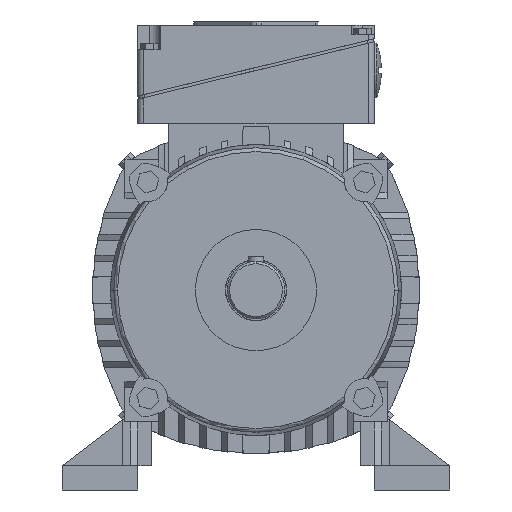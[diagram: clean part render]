
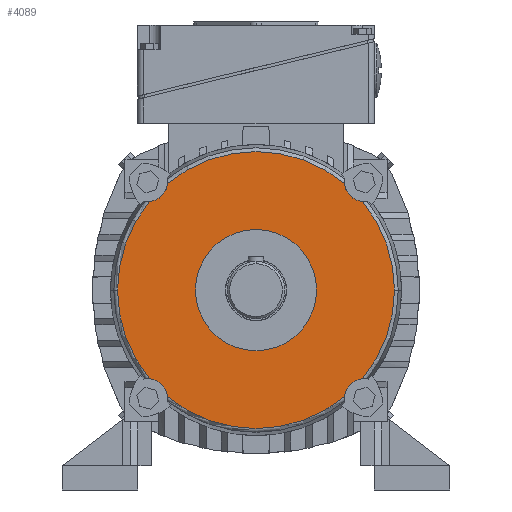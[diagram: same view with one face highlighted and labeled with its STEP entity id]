
A CAD part, front view. The second image highlights one B-rep face of the part: STEP entity #4089.
In plain terms, the highlighted planar face has unit normal (0, -1, 0).
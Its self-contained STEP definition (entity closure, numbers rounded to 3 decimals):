
#3847=VERTEX_POINT('',#11311);
#3871=EDGE_CURVE('',#4493,#4595,#11337,.T.);
#4089=ADVANCED_FACE('',(#11577,#11578),#11579,.T.);
#4101=EDGE_CURVE('',#8759,#4527,#11592,.T.);
#4493=VERTEX_POINT('',#12021);
#4521=VERTEX_POINT('',#12053);
#4527=VERTEX_POINT('',#12059);
#4595=VERTEX_POINT('',#12133);
#4711=EDGE_CURVE('',#9201,#8759,#12258,.T.);
#5099=EDGE_CURVE('',#5585,#9627,#12687,.T.);
#5267=EDGE_CURVE('',#6183,#5585,#12876,.T.);
#5585=VERTEX_POINT('',#13225);
#5965=EDGE_CURVE('',#8997,#9615,#13648,.T.);
#6183=VERTEX_POINT('',#13884);
#6489=VERTEX_POINT('',#14219);
#7993=EDGE_CURVE('',#10201,#9201,#15855,.T.);
#8421=EDGE_CURVE('',#10375,#6183,#16323,.T.);
#8467=EDGE_CURVE('',#4521,#3847,#16372,.T.);
#8655=EDGE_CURVE('',#6489,#8917,#16575,.T.);
#8717=EDGE_CURVE('',#9615,#4493,#16639,.T.);
#8759=VERTEX_POINT('',#16687);
#8917=VERTEX_POINT('',#16863);
#8997=VERTEX_POINT('',#16948);
#9201=VERTEX_POINT('',#17172);
#9507=EDGE_CURVE('',#9627,#10201,#17504,.T.);
#9615=VERTEX_POINT('',#17624);
#9627=VERTEX_POINT('',#17638);
#10165=EDGE_CURVE('',#4595,#6489,#18223,.T.);
#10201=VERTEX_POINT('',#18261);
#10375=VERTEX_POINT('',#18451);
#10385=EDGE_CURVE('',#3847,#4521,#18463,.T.);
#10459=EDGE_CURVE('',#8917,#10375,#18543,.T.);
#10901=EDGE_CURVE('',#4527,#8997,#19014,.T.);
#11311=CARTESIAN_POINT('',(-40.0,-28.0,0.));
#11337=CIRCLE('',#19633,91.434);
#11577=FACE_OUTER_BOUND('',#20041,.T.);
#11578=FACE_BOUND('',#20042,.T.);
#11579=PLANE('',#20043);
#11592=CIRCLE('',#20071,13.0);
#12021=CARTESIAN_POINT('',(-70.299,-28.0,58.466));
#12053=CARTESIAN_POINT('',(40.0,-28.0,0.));
#12059=CARTESIAN_POINT('',(58.466,-28.0,70.299));
#12133=CARTESIAN_POINT('',(-91.434,-28.0,0.));
#12258=CIRCLE('',#21366,13.0);
#12687=CIRCLE('',#22144,13.0);
#12876=CIRCLE('',#22500,13.0);
#13225=CARTESIAN_POINT('',(62.225,-28.0,-62.225));
#13648=CIRCLE('',#23981,13.0);
#13884=CARTESIAN_POINT('',(58.466,-28.0,-70.299));
#14219=CARTESIAN_POINT('',(-70.299,-28.0,-58.466));
#15855=CIRCLE('',#28148,91.434);
#16323=CIRCLE('',#29017,91.434);
#16372=CIRCLE('',#29085,40.0);
#16575=CIRCLE('',#29510,13.0);
#16639=CIRCLE('',#29714,13.0);
#16687=CARTESIAN_POINT('',(62.225,-28.0,62.225));
#16863=CARTESIAN_POINT('',(-62.225,-28.0,-62.225));
#16948=CARTESIAN_POINT('',(-58.466,-28.0,70.299));
#17172=CARTESIAN_POINT('',(70.299,-28.0,58.466));
#17504=CIRCLE('',#31510,91.434);
#17624=CARTESIAN_POINT('',(-62.225,-28.0,62.225));
#17638=CARTESIAN_POINT('',(70.299,-28.0,-58.466));
#18223=CIRCLE('',#32931,91.434);
#18261=CARTESIAN_POINT('',(91.434,-28.0,0.));
#18451=CARTESIAN_POINT('',(-58.466,-28.0,-70.299));
#18463=CIRCLE('',#33384,40.0);
#18543=CIRCLE('',#33579,13.0);
#19014=CIRCLE('',#34551,91.434);
#19633=AXIS2_PLACEMENT_3D('',#35308,#35309,#35310);
#20041=EDGE_LOOP('',(#35574,#35575,#35576,#35577,#35578,#35579,#35580,#35581,#35582,#35583,#35584,#35585,#35586,#35587));
#20042=EDGE_LOOP('',(#35588,#35589));
#20043=AXIS2_PLACEMENT_3D('',#35590,#35591,#35592);
#20071=AXIS2_PLACEMENT_3D('',#35604,#35605,#35606);
#21366=AXIS2_PLACEMENT_3D('',#36291,#36292,#36293);
#22144=AXIS2_PLACEMENT_3D('',#36738,#36739,#36740);
#22500=AXIS2_PLACEMENT_3D('',#36990,#36991,#36992);
#23981=AXIS2_PLACEMENT_3D('',#37882,#37883,#37884);
#28148=AXIS2_PLACEMENT_3D('',#40319,#40320,#40321);
#29017=AXIS2_PLACEMENT_3D('',#40816,#40817,#40818);
#29085=AXIS2_PLACEMENT_3D('',#40858,#40859,#40860);
#29510=AXIS2_PLACEMENT_3D('',#41039,#41040,#41041);
#29714=AXIS2_PLACEMENT_3D('',#41081,#41082,#41083);
#31510=AXIS2_PLACEMENT_3D('',#41977,#41978,#41979);
#32931=AXIS2_PLACEMENT_3D('',#42752,#42753,#42754);
#33384=AXIS2_PLACEMENT_3D('',#42972,#42973,#42974);
#33579=AXIS2_PLACEMENT_3D('',#43038,#43039,#43040);
#34551=AXIS2_PLACEMENT_3D('',#43409,#43410,#43411);
#35308=CARTESIAN_POINT('',(0.0,-28.0,0.0));
#35309=DIRECTION('',(0.0,-1.0,0.0));
#35310=DIRECTION('',(1.0,0.0,0.0));
#35574=ORIENTED_EDGE('',*,*,#5267,.T.);
#35575=ORIENTED_EDGE('',*,*,#5099,.T.);
#35576=ORIENTED_EDGE('',*,*,#9507,.T.);
#35577=ORIENTED_EDGE('',*,*,#7993,.T.);
#35578=ORIENTED_EDGE('',*,*,#4711,.T.);
#35579=ORIENTED_EDGE('',*,*,#4101,.T.);
#35580=ORIENTED_EDGE('',*,*,#10901,.T.);
#35581=ORIENTED_EDGE('',*,*,#5965,.T.);
#35582=ORIENTED_EDGE('',*,*,#8717,.T.);
#35583=ORIENTED_EDGE('',*,*,#3871,.T.);
#35584=ORIENTED_EDGE('',*,*,#10165,.T.);
#35585=ORIENTED_EDGE('',*,*,#8655,.T.);
#35586=ORIENTED_EDGE('',*,*,#10459,.T.);
#35587=ORIENTED_EDGE('',*,*,#8421,.T.);
#35588=ORIENTED_EDGE('',*,*,#10385,.T.);
#35589=ORIENTED_EDGE('',*,*,#8467,.T.);
#35590=CARTESIAN_POINT('',(45.717,-28.0,0.0));
#35591=DIRECTION('',(0.,-1.0,0.0));
#35592=DIRECTION('',(1.0,0.,0.0));
#35604=CARTESIAN_POINT('',(71.418,-28.0,71.418));
#35605=DIRECTION('',(0.,1.0,0.0));
#35606=DIRECTION('',(0.707,0.,0.707));
#36291=CARTESIAN_POINT('',(71.418,-28.0,71.418));
#36292=DIRECTION('',(0.,1.0,0.0));
#36293=DIRECTION('',(0.707,0.,0.707));
#36738=CARTESIAN_POINT('',(71.418,-28.0,-71.418));
#36739=DIRECTION('',(0.,1.0,0.0));
#36740=DIRECTION('',(0.707,0.,-0.707));
#36990=CARTESIAN_POINT('',(71.418,-28.0,-71.418));
#36991=DIRECTION('',(0.,1.0,0.0));
#36992=DIRECTION('',(0.707,0.,-0.707));
#37882=CARTESIAN_POINT('',(-71.418,-28.0,71.418));
#37883=DIRECTION('',(0.,1.0,0.0));
#37884=DIRECTION('',(-0.707,0.,0.707));
#40319=CARTESIAN_POINT('',(0.0,-28.0,0.0));
#40320=DIRECTION('',(0.0,-1.0,0.0));
#40321=DIRECTION('',(1.0,0.0,0.0));
#40816=CARTESIAN_POINT('',(0.0,-28.0,0.0));
#40817=DIRECTION('',(0.0,-1.0,0.0));
#40818=DIRECTION('',(1.0,0.0,0.0));
#40858=CARTESIAN_POINT('',(0.0,-28.0,0.0));
#40859=DIRECTION('',(0.,1.0,0.0));
#40860=DIRECTION('',(1.0,0.,0.0));
#41039=CARTESIAN_POINT('',(-71.418,-28.0,-71.418));
#41040=DIRECTION('',(0.,1.0,0.0));
#41041=DIRECTION('',(-0.707,0.,-0.707));
#41081=CARTESIAN_POINT('',(-71.418,-28.0,71.418));
#41082=DIRECTION('',(0.,1.0,0.0));
#41083=DIRECTION('',(-0.707,0.,0.707));
#41977=CARTESIAN_POINT('',(0.0,-28.0,0.0));
#41978=DIRECTION('',(0.0,-1.0,0.0));
#41979=DIRECTION('',(1.0,0.0,0.0));
#42752=CARTESIAN_POINT('',(0.0,-28.0,0.0));
#42753=DIRECTION('',(0.0,-1.0,0.0));
#42754=DIRECTION('',(1.0,0.0,0.0));
#42972=CARTESIAN_POINT('',(0.0,-28.0,0.0));
#42973=DIRECTION('',(0.,1.0,0.0));
#42974=DIRECTION('',(1.0,0.,0.0));
#43038=CARTESIAN_POINT('',(-71.418,-28.0,-71.418));
#43039=DIRECTION('',(0.,1.0,0.0));
#43040=DIRECTION('',(-0.707,0.,-0.707));
#43409=CARTESIAN_POINT('',(0.0,-28.0,0.0));
#43410=DIRECTION('',(0.0,-1.0,0.0));
#43411=DIRECTION('',(1.0,0.0,0.0));
